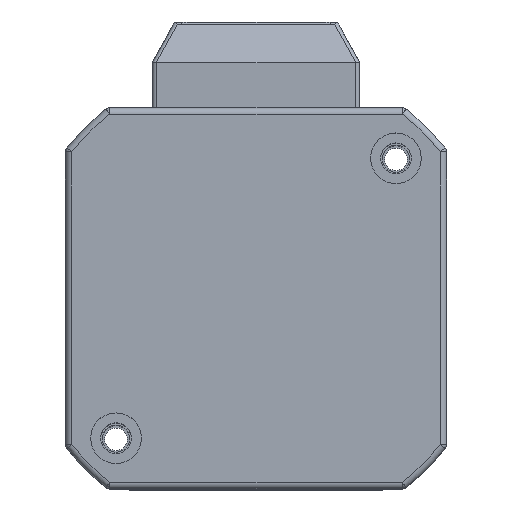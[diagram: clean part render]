
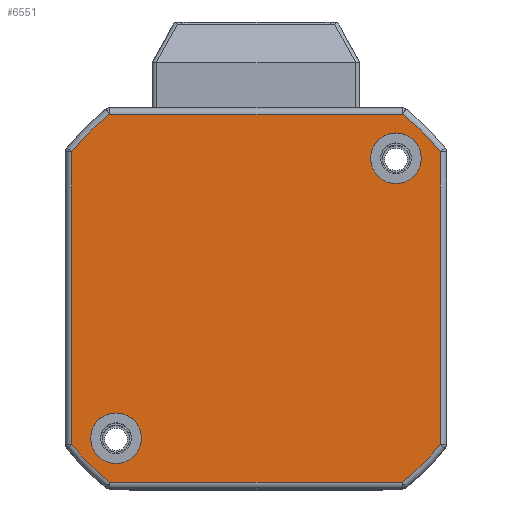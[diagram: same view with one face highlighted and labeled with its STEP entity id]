
A CAD part, top view. The second image highlights one B-rep face of the part: STEP entity #6551.
In plain terms, the highlighted planar face has unit normal (0, 0, 1) as drawn and (0, 0, -1) by its records, which use the part's own axes.
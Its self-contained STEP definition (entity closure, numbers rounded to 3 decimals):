
#264 = ORIENTED_EDGE ( 'NONE', *, *, #9483, .T. ) ;
#380 = EDGE_CURVE ( 'NONE', #10716, #23168, #596, .T. ) ;
#591 = CIRCLE ( 'NONE', #22045, 2.8 ) ;
#596 = CIRCLE ( 'NONE', #4696, 26.05 ) ;
#725 = DIRECTION ( 'NONE',  ( -1., 0., 0. ) ) ;
#796 = CARTESIAN_POINT ( 'NONE',  ( 20.4, 16.2, 0. ) ) ;
#1066 = EDGE_LOOP ( 'NONE', ( #264, #27232, #28468, #12131, #21079, #29106, #22843, #4094 ) ) ;
#1194 = DIRECTION ( 'NONE',  ( 0., -1., 0. ) ) ;
#1236 = AXIS2_PLACEMENT_3D ( 'NONE', #23665, #4006, #31155 ) ;
#1243 = CARTESIAN_POINT ( 'NONE',  ( -15.5, 15.5, 0. ) ) ;
#1318 = CARTESIAN_POINT ( 'NONE',  ( -16.442, -20.4, 0. ) ) ;
#1538 = VERTEX_POINT ( 'NONE', #19266 ) ;
#1615 = LINE ( 'NONE', #31181, #12033 ) ;
#1897 = CARTESIAN_POINT ( 'NONE',  ( 12.7, -15.5, 0. ) ) ;
#2178 = VERTEX_POINT ( 'NONE', #2908 ) ;
#2219 = CARTESIAN_POINT ( 'NONE',  ( 16.2, -20.4, 0. ) ) ;
#2908 = CARTESIAN_POINT ( 'NONE',  ( -12.7, 15.5, 0. ) ) ;
#3332 = ORIENTED_EDGE ( 'NONE', *, *, #27063, .F. ) ;
#4006 = DIRECTION ( 'NONE',  ( 0., 0., -1. ) ) ;
#4040 = DIRECTION ( 'NONE',  ( 1., 0., 0. ) ) ;
#4094 = ORIENTED_EDGE ( 'NONE', *, *, #15029, .T. ) ;
#4696 = AXIS2_PLACEMENT_3D ( 'NONE', #18966, #21668, #28676 ) ;
#5503 = EDGE_CURVE ( 'NONE', #2178, #29508, #591, .T. ) ;
#5703 = CIRCLE ( 'NONE', #23055, 26.05 ) ;
#5959 = EDGE_CURVE ( 'NONE', #29508, #2178, #8335, .T. ) ;
#6401 = FACE_OUTER_BOUND ( 'NONE', #1066, .T. ) ;
#6464 = VECTOR ( 'NONE', #16724, 1000. ) ;
#6509 = LINE ( 'NONE', #30305, #19739 ) ;
#6551 = ADVANCED_FACE ( 'NONE', ( #6401, #11215, #31004 ), #6691, .F. ) ;
#6604 = DIRECTION ( 'NONE',  ( 0., 0., -1. ) ) ;
#6691 = PLANE ( 'NONE',  #14398 ) ;
#6723 = CARTESIAN_POINT ( 'NONE',  ( -18.3, 15.5, 0. ) ) ;
#6987 = CARTESIAN_POINT ( 'NONE',  ( 0., 0., 0. ) ) ;
#8335 = CIRCLE ( 'NONE', #23615, 2.8 ) ;
#8759 = DIRECTION ( 'NONE',  ( -1., 0., 0. ) ) ;
#9055 = CARTESIAN_POINT ( 'NONE',  ( 0., 0., 0. ) ) ;
#9157 = EDGE_CURVE ( 'NONE', #1538, #20708, #27797, .T. ) ;
#9262 = CIRCLE ( 'NONE', #17951, 2.8 ) ;
#9483 = EDGE_CURVE ( 'NONE', #27566, #30141, #15629, .T. ) ;
#9832 = CIRCLE ( 'NONE', #10836, 2.8 ) ;
#10716 = VERTEX_POINT ( 'NONE', #16999 ) ;
#10836 = AXIS2_PLACEMENT_3D ( 'NONE', #30626, #18986, #8759 ) ;
#11215 = FACE_BOUND ( 'NONE', #14062, .T. ) ;
#11355 = CARTESIAN_POINT ( 'NONE',  ( -16.2, -20.4, 0. ) ) ;
#11446 = EDGE_CURVE ( 'NONE', #26973, #25406, #9832, .T. ) ;
#12033 = VECTOR ( 'NONE', #13993, 1000. ) ;
#12131 = ORIENTED_EDGE ( 'NONE', *, *, #31394, .T. ) ;
#12798 = EDGE_LOOP ( 'NONE', ( #3332, #27253 ) ) ;
#13930 = CARTESIAN_POINT ( 'NONE',  ( 0., 0., 0. ) ) ;
#13993 = DIRECTION ( 'NONE',  ( 0., 1., 0. ) ) ;
#14062 = EDGE_LOOP ( 'NONE', ( #14276, #27960 ) ) ;
#14074 = AXIS2_PLACEMENT_3D ( 'NONE', #9055, #6604, #4040 ) ;
#14108 = DIRECTION ( 'NONE',  ( 1., 0., 0. ) ) ;
#14276 = ORIENTED_EDGE ( 'NONE', *, *, #5959, .F. ) ;
#14398 = AXIS2_PLACEMENT_3D ( 'NONE', #13930, #18572, #14108 ) ;
#14557 = EDGE_CURVE ( 'NONE', #21867, #10716, #6509, .T. ) ;
#15029 = EDGE_CURVE ( 'NONE', #23168, #27566, #18332, .T. ) ;
#15629 = CIRCLE ( 'NONE', #1236, 26.05 ) ;
#16188 = DIRECTION ( 'NONE',  ( 0., 0., -1. ) ) ;
#16497 = CARTESIAN_POINT ( 'NONE',  ( 16.2, 20.4, 0. ) ) ;
#16724 = DIRECTION ( 'NONE',  ( -1., 0., 0. ) ) ;
#16771 = DIRECTION ( 'NONE',  ( 1., 0., 0. ) ) ;
#16999 = CARTESIAN_POINT ( 'NONE',  ( 20.4, -16.2, 0. ) ) ;
#17051 = CARTESIAN_POINT ( 'NONE',  ( 16.442, 20.4, 0. ) ) ;
#17214 = DIRECTION ( 'NONE',  ( -1., 0., 0. ) ) ;
#17347 = EDGE_CURVE ( 'NONE', #18002, #21867, #5703, .T. ) ;
#17951 = AXIS2_PLACEMENT_3D ( 'NONE', #22650, #20274, #725 ) ;
#18002 = VERTEX_POINT ( 'NONE', #16497 ) ;
#18332 = LINE ( 'NONE', #1318, #6464 ) ;
#18572 = DIRECTION ( 'NONE',  ( 0., 0., 1. ) ) ;
#18966 = CARTESIAN_POINT ( 'NONE',  ( 0., 0., 0. ) ) ;
#18986 = DIRECTION ( 'NONE',  ( 0., 0., -1. ) ) ;
#19266 = CARTESIAN_POINT ( 'NONE',  ( -20.4, 16.2, 0. ) ) ;
#19311 = CARTESIAN_POINT ( 'NONE',  ( 18.3, -15.5, 0. ) ) ;
#19739 = VECTOR ( 'NONE', #1194, 1000. ) ;
#20274 = DIRECTION ( 'NONE',  ( 0., 0., -1. ) ) ;
#20708 = VERTEX_POINT ( 'NONE', #20803 ) ;
#20803 = CARTESIAN_POINT ( 'NONE',  ( -16.2, 20.4, 0. ) ) ;
#21079 = ORIENTED_EDGE ( 'NONE', *, *, #17347, .T. ) ;
#21201 = DIRECTION ( 'NONE',  ( 1., 0., 0. ) ) ;
#21668 = DIRECTION ( 'NONE',  ( 0., 0., -1. ) ) ;
#21867 = VERTEX_POINT ( 'NONE', #796 ) ;
#22045 = AXIS2_PLACEMENT_3D ( 'NONE', #1243, #16188, #30845 ) ;
#22650 = CARTESIAN_POINT ( 'NONE',  ( 15.5, -15.5, 0. ) ) ;
#22843 = ORIENTED_EDGE ( 'NONE', *, *, #380, .T. ) ;
#22845 = EDGE_CURVE ( 'NONE', #30141, #1538, #1615, .T. ) ;
#23055 = AXIS2_PLACEMENT_3D ( 'NONE', #6987, #29170, #16771 ) ;
#23168 = VERTEX_POINT ( 'NONE', #2219 ) ;
#23615 = AXIS2_PLACEMENT_3D ( 'NONE', #31369, #26744, #17214 ) ;
#23634 = VECTOR ( 'NONE', #21201, 1000. ) ;
#23665 = CARTESIAN_POINT ( 'NONE',  ( 0., 0., 0. ) ) ;
#25406 = VERTEX_POINT ( 'NONE', #1897 ) ;
#26744 = DIRECTION ( 'NONE',  ( 0., 0., -1. ) ) ;
#26973 = VERTEX_POINT ( 'NONE', #19311 ) ;
#27063 = EDGE_CURVE ( 'NONE', #25406, #26973, #9262, .T. ) ;
#27232 = ORIENTED_EDGE ( 'NONE', *, *, #22845, .T. ) ;
#27253 = ORIENTED_EDGE ( 'NONE', *, *, #11446, .F. ) ;
#27566 = VERTEX_POINT ( 'NONE', #11355 ) ;
#27761 = CARTESIAN_POINT ( 'NONE',  ( -20.4, -16.2, 0. ) ) ;
#27797 = CIRCLE ( 'NONE', #14074, 26.05 ) ;
#27960 = ORIENTED_EDGE ( 'NONE', *, *, #5503, .F. ) ;
#28468 = ORIENTED_EDGE ( 'NONE', *, *, #9157, .T. ) ;
#28676 = DIRECTION ( 'NONE',  ( 1., 0., 0. ) ) ;
#28980 = LINE ( 'NONE', #17051, #23634 ) ;
#29106 = ORIENTED_EDGE ( 'NONE', *, *, #14557, .T. ) ;
#29170 = DIRECTION ( 'NONE',  ( 0., 0., -1. ) ) ;
#29508 = VERTEX_POINT ( 'NONE', #6723 ) ;
#30141 = VERTEX_POINT ( 'NONE', #27761 ) ;
#30305 = CARTESIAN_POINT ( 'NONE',  ( 20.4, -16.442, 0. ) ) ;
#30626 = CARTESIAN_POINT ( 'NONE',  ( 15.5, -15.5, 0. ) ) ;
#30845 = DIRECTION ( 'NONE',  ( -1., 0., 0. ) ) ;
#31004 = FACE_BOUND ( 'NONE', #12798, .T. ) ;
#31155 = DIRECTION ( 'NONE',  ( 1., 0., 0. ) ) ;
#31181 = CARTESIAN_POINT ( 'NONE',  ( -20.4, 16.442, 0. ) ) ;
#31369 = CARTESIAN_POINT ( 'NONE',  ( -15.5, 15.5, 0. ) ) ;
#31394 = EDGE_CURVE ( 'NONE', #20708, #18002, #28980, .T. ) ;
